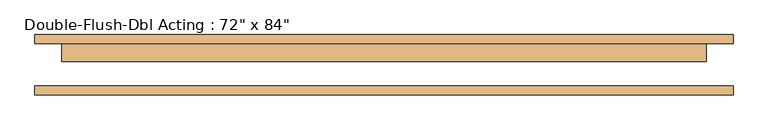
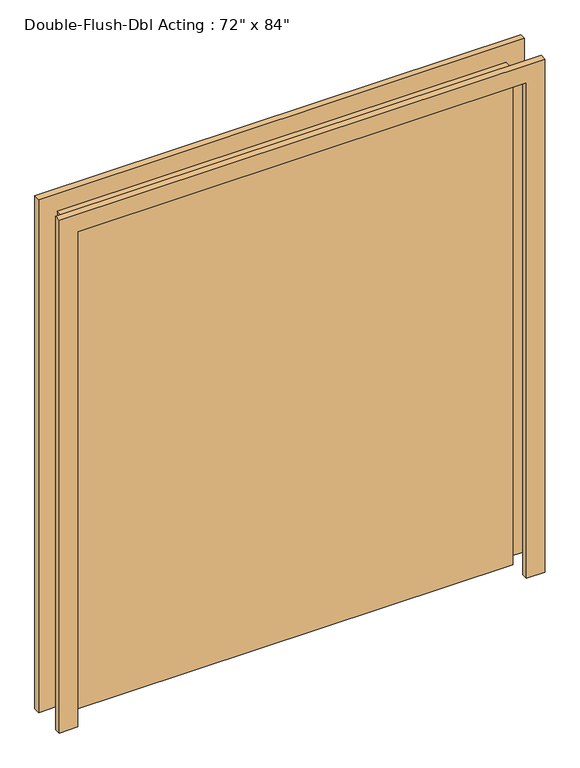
"""IFC4 building model written with IfcOpenShell, lengths in millimetres: door geometry."""

from ifc_helpers import new_model, si_unit, frame, origin, origin_with_axes, place, context, project, spatial, polyline, outline, extrude, source, transform, mapped, element, save


def door_ca526e64(model_context):
    return source(origin(), model_context, "Body", "SweptSolid", [
        extrude(outline(polyline([(2209.8, -990.6), (0.0, -990.6), (0.0, -914.4), (2133.6, -914.4), (2133.6, 914.4), (0.0, 914.4), (0.0, 990.6), (2209.8, 990.6), (2209.8, -990.6)])), frame((0.0, 60.325, 0.0), z_axis=(0.0, 1.0, 0.0), x_axis=(0.0, 0.0, 1.0)), (0.0, 0.0, 1.0), 25.4),
        extrude(outline(polyline([(-914.4, 60.325), (914.4, 60.325), (914.4, 9.525), (-914.4, 9.525), (-914.4, 60.325)])), origin_with_axes(), (0.0, 0.0, 1.0), 2133.6),
        extrude(outline(polyline([(2133.6, -914.4), (2133.6, 914.4), (0.0, 914.4), (0.0, 990.6), (2209.8, 990.6), (2209.8, -990.6), (0.0, -990.6), (0.0, -914.4), (2133.6, -914.4)])), frame((0.0, -85.725, 0.0), z_axis=(0.0, 1.0, 0.0), x_axis=(0.0, 0.0, 1.0)), (0.0, 0.0, 1.0), 25.4),
    ])


if __name__ == "__main__":
    model = new_model("IFC4")
    model_context = context("Model", 3, world=origin())
    ifc_project = project(units=[si_unit("LENGTHUNIT", "METRE", prefix="MILLI")], contexts=[model_context])
    site = spatial("IfcSite", under=ifc_project)
    building = spatial("IfcBuilding", under=site)
    placement = place(None, origin())
    door_shape = door_ca526e64(model_context)
    element("IfcDoor", 1, ObjectType="Double-Flush-Dbl Acting : 72\" x 84\"", at=placement, inside=building, context=model_context, shape_type="MappedRepresentation", body=[
        mapped(door_shape, transform((0.0, 0.0, 0.0), x_axis=(1.0, 0.0, 0.0), y_axis=(0.0, 1.0, 0.0), z_axis=(0.0, 0.0, 1.0))),
    ])
    save(model, "model.ifc")
